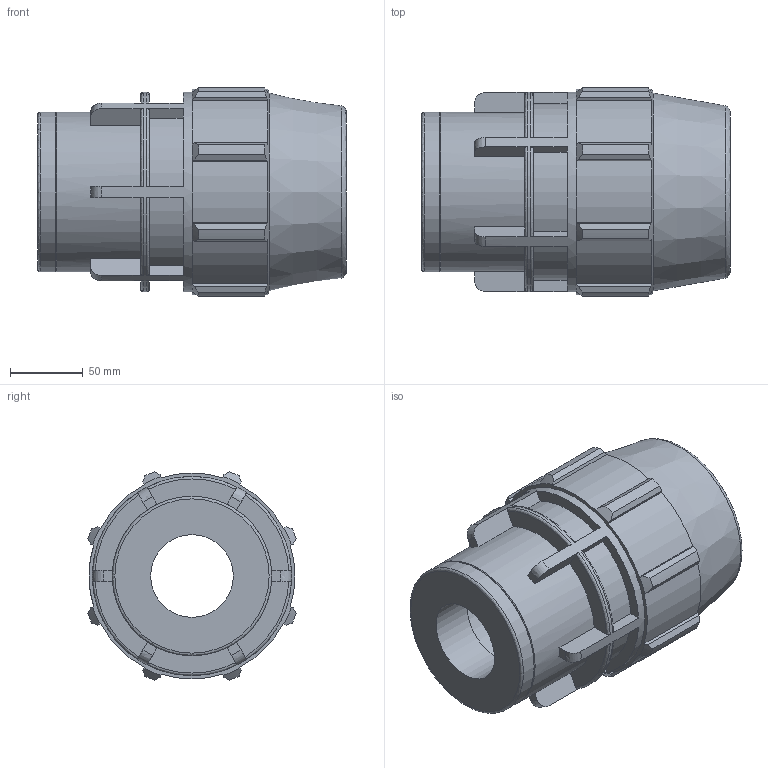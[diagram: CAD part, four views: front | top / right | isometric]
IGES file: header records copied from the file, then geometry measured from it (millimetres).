
Global section: file name: 870300090020_180300090020_840306090020.ipt; native system: Autodesk Inventor 2015; preprocessor: unknown; author: KIM; date: 20180325.201157; units: millimetre
Bounding box: 212 x 143.02 x 143.02 mm (x, y, z)
Volume: 1401254.9 mm3; surface area: 179623 mm2
Topology: 1 solids, 1 shells, 146 faces, 408 edges, 273 vertices
Faces by surface type: plane 85, cylinder 25, revolution 24, cone 12
Full cylindrical faces by diameter (mm): 109.44 x2, 136.8 x1
